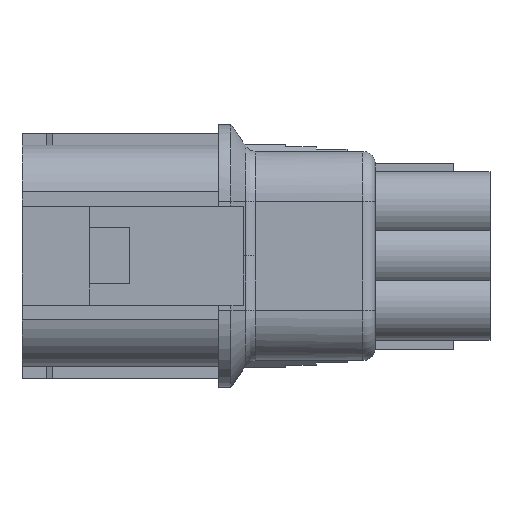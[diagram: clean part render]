
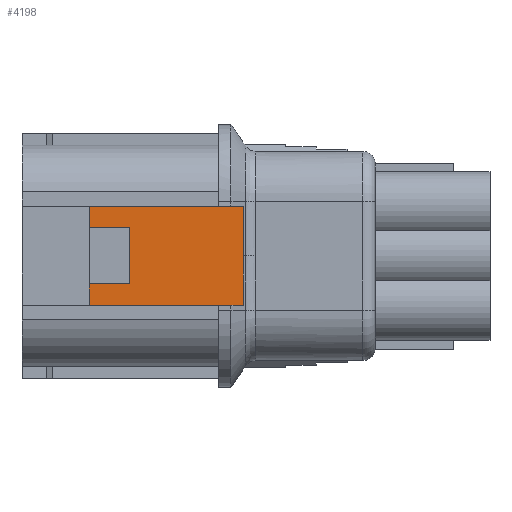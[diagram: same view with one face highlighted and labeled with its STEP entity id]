
A CAD part, top view. The second image highlights one B-rep face of the part: STEP entity #4198.
In plain terms, the highlighted planar face has unit normal (0, 0, 1).
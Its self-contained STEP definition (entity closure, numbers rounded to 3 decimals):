
#4145=AXIS2_PLACEMENT_3D('Plane Axis2P3D',#4142,#4143,#4144) ;
#2896=CARTESIAN_POINT('Vertex',(8.8,2.3,8.6)) ;
#2910=CARTESIAN_POINT('Vertex',(8.8,-2.3,8.6)) ;
#2913=CARTESIAN_POINT('Line Origine',(8.8,2.3,8.6)) ;
#2934=CARTESIAN_POINT('Vertex',(5.5,2.3,8.6)) ;
#2944=CARTESIAN_POINT('Line Origine',(7.15,2.3,8.6)) ;
#2985=CARTESIAN_POINT('Line Origine',(7.15,-2.3,8.6)) ;
#2989=CARTESIAN_POINT('Vertex',(5.5,-2.3,8.6)) ;
#4142=CARTESIAN_POINT('Axis2P3D Location',(17.249,-10.75,8.6)) ;
#4147=CARTESIAN_POINT('Line Origine',(11.811,-4.05,8.6)) ;
#4151=CARTESIAN_POINT('Vertex',(5.5,-4.05,8.6)) ;
#4153=CARTESIAN_POINT('Vertex',(18.121,-4.05,8.6)) ;
#4156=CARTESIAN_POINT('Line Origine',(18.121,-2.025,8.6)) ;
#4160=CARTESIAN_POINT('Vertex',(18.121,0.,8.6)) ;
#4163=CARTESIAN_POINT('Line Origine',(18.121,2.025,8.6)) ;
#4167=CARTESIAN_POINT('Vertex',(18.121,4.05,8.6)) ;
#4170=CARTESIAN_POINT('Line Origine',(11.811,4.05,8.6)) ;
#4174=CARTESIAN_POINT('Vertex',(5.5,4.05,8.6)) ;
#4177=CARTESIAN_POINT('Line Origine',(5.5,3.175,8.6)) ;
#4182=CARTESIAN_POINT('Line Origine',(5.5,-3.175,8.6)) ;
#2914=DIRECTION('Vector Direction',(0.,-1.,0.)) ;
#2945=DIRECTION('Vector Direction',(-1.,0.,0.)) ;
#2986=DIRECTION('Vector Direction',(1.,0.,0.)) ;
#4143=DIRECTION('Axis2P3D Direction',(-0.,0.,1.)) ;
#4144=DIRECTION('Axis2P3D XDirection',(0.,-1.,0.)) ;
#4148=DIRECTION('Vector Direction',(1.,0.,0.)) ;
#4157=DIRECTION('Vector Direction',(0.,-1.,0.)) ;
#4164=DIRECTION('Vector Direction',(0.,-1.,0.)) ;
#4171=DIRECTION('Vector Direction',(-1.,0.,0.)) ;
#4178=DIRECTION('Vector Direction',(0.,1.,0.)) ;
#4183=DIRECTION('Vector Direction',(0.,1.,0.)) ;
#2915=VECTOR('Line Direction',#2914,1.) ;
#2946=VECTOR('Line Direction',#2945,1.) ;
#2987=VECTOR('Line Direction',#2986,1.) ;
#4149=VECTOR('Line Direction',#4148,1.) ;
#4158=VECTOR('Line Direction',#4157,1.) ;
#4165=VECTOR('Line Direction',#4164,1.) ;
#4172=VECTOR('Line Direction',#4171,1.) ;
#4179=VECTOR('Line Direction',#4178,1.) ;
#4184=VECTOR('Line Direction',#4183,1.) ;
#4188=ORIENTED_EDGE('',*,*,#4155,.T.) ;
#4189=ORIENTED_EDGE('',*,*,#4162,.F.) ;
#4190=ORIENTED_EDGE('',*,*,#4169,.T.) ;
#4191=ORIENTED_EDGE('',*,*,#4176,.T.) ;
#4192=ORIENTED_EDGE('',*,*,#4181,.F.) ;
#4193=ORIENTED_EDGE('',*,*,#2948,.F.) ;
#4194=ORIENTED_EDGE('',*,*,#2917,.F.) ;
#4195=ORIENTED_EDGE('',*,*,#2991,.F.) ;
#4196=ORIENTED_EDGE('',*,*,#4186,.F.) ;
#4198=ADVANCED_FACE('6188-4908',(#4197),#4146,.T.) ;
#2917=EDGE_CURVE('',#2911,#2897,#2916,.F.) ;
#2948=EDGE_CURVE('',#2897,#2935,#2947,.T.) ;
#2991=EDGE_CURVE('',#2990,#2911,#2988,.T.) ;
#4155=EDGE_CURVE('',#4152,#4154,#4150,.T.) ;
#4162=EDGE_CURVE('',#4161,#4154,#4159,.T.) ;
#4169=EDGE_CURVE('',#4161,#4168,#4166,.F.) ;
#4176=EDGE_CURVE('',#4168,#4175,#4173,.T.) ;
#4181=EDGE_CURVE('',#2935,#4175,#4180,.T.) ;
#4186=EDGE_CURVE('',#4152,#2990,#4185,.T.) ;
#4187=EDGE_LOOP('',(#4188,#4189,#4190,#4191,#4192,#4193,#4194,#4195,#4196)) ;
#4197=FACE_OUTER_BOUND('',#4187,.T.) ;
#2916=LINE('Line',#2913,#2915) ;
#2947=LINE('Line',#2944,#2946) ;
#2988=LINE('Line',#2985,#2987) ;
#4150=LINE('Line',#4147,#4149) ;
#4159=LINE('Line',#4156,#4158) ;
#4166=LINE('Line',#4163,#4165) ;
#4173=LINE('Line',#4170,#4172) ;
#4180=LINE('Line',#4177,#4179) ;
#4185=LINE('Line',#4182,#4184) ;
#4146=PLANE('',#4145) ;
#2897=VERTEX_POINT('',#2896) ;
#2911=VERTEX_POINT('',#2910) ;
#2935=VERTEX_POINT('',#2934) ;
#2990=VERTEX_POINT('',#2989) ;
#4152=VERTEX_POINT('',#4151) ;
#4154=VERTEX_POINT('',#4153) ;
#4161=VERTEX_POINT('',#4160) ;
#4168=VERTEX_POINT('',#4167) ;
#4175=VERTEX_POINT('',#4174) ;
